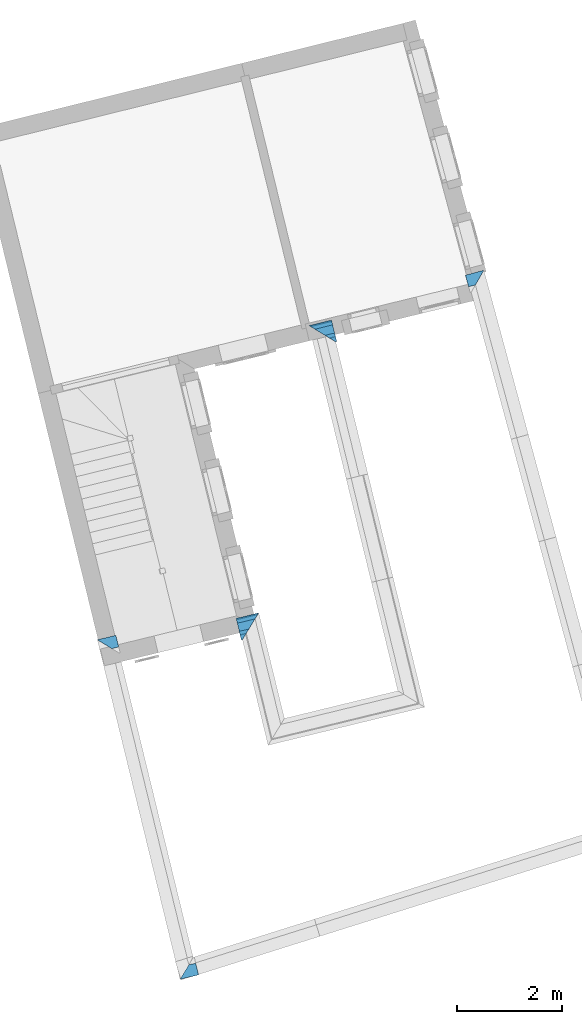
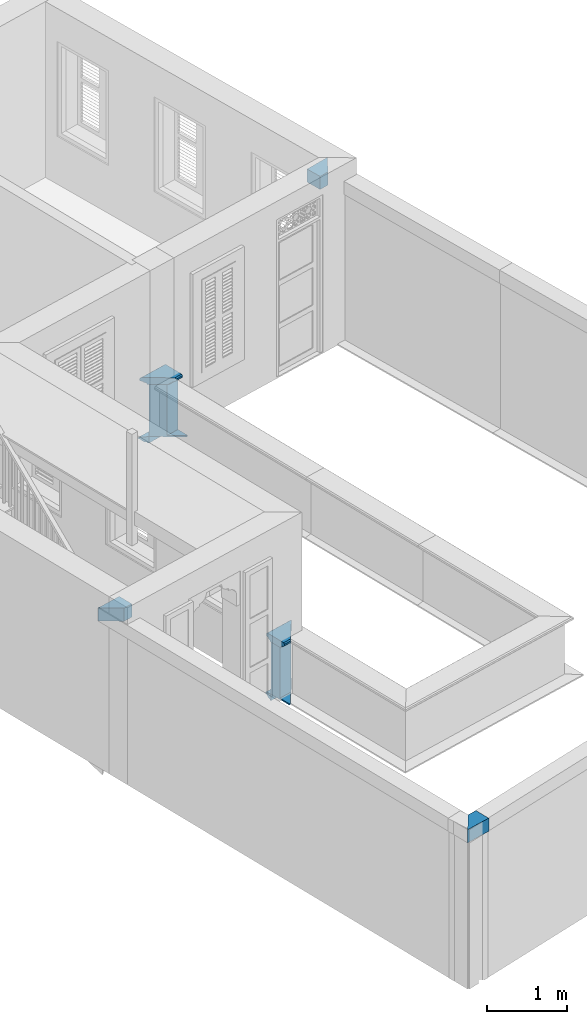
# One storey, part 9 of 9: 9 walls.
"""IFC4 building model written with IfcOpenShell, lengths in metres."""

from ifc_helpers import new_model, si_unit, frame, origin_with_axes, place, context, subcontext, project, spatial, polyline, outline, extrude, clip, halfspace, material_profile, profile_set, profile_usage, type_object, element, save


model = new_model("IFC4")

# Units and contexts
model_context = context("Model", 3, world=origin_with_axes())
body_context = subcontext(model_context, "Body", "Model", "MODEL_VIEW")
ifc_project = project(units=[si_unit("PLANEANGLEUNIT", "RADIAN"), si_unit("MASSUNIT", "GRAM", prefix="KILO"), si_unit("FORCEUNIT", "NEWTON", prefix="KILO"), si_unit("LENGTHUNIT", "METRE"), si_unit("AREAUNIT", "SQUARE_METRE"), si_unit("VOLUMEUNIT", "CUBIC_METRE")], contexts=[model_context, model_context])

# Site, building, storey
site_placement = place(None, origin_with_axes())
site = spatial("IfcSite", under=ifc_project, at=site_placement, Name="Site plot-4", CompositionType="ELEMENT")
building_placement = place(None, origin_with_axes())
building = spatial("IfcBuilding", under=site, at=building_placement, Name="Building plot-4", CompositionType="ELEMENT")
storey_placement = place(None, frame((0.0, 0.0, 2.7), z_axis=(0.0, 0.0, 1.0), x_axis=(1.0, 0.0, 0.0)))
storey = spatial("IfcBuildingStorey", under=building, at=storey_placement, Name="plot-4 1", CompositionType="ELEMENT", Elevation=2.7)

# Walls
ifc_material_profile_1 = material_profile(None, outline(polyline([(0.265, 2.245), (0.265, 2.445), (0.035, 2.445), (0.035, 2.245), (0.265, 2.245)])))
ifc_profile_set_1 = profile_set([ifc_material_profile_1])
ifc_profile_usage_1 = profile_usage(ifc_profile_set_1)
wall_type_1 = type_object("IfcWallType", Name="parapet street_1", PredefinedType="PARAPET", material=ifc_profile_set_1)
wall_1_placement = place(storey_placement, frame((25.5564989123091, 16.1146392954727, 0.0), z_axis=(0.965292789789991, 0.261170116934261, 0.0), x_axis=(-0.261170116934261, 0.965292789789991, 0.0)))
element("IfcWall", 1, at=wall_1_placement, inside=storey, type_object=wall_type_1, material=ifc_profile_usage_1, Name="parapet street_1", context=body_context, shape_type="Clipping", body=[
    clip(clip(extrude(outline(polyline([(0.265, 2.245), (0.265, 2.445), (0.035, 2.445), (0.035, 2.245), (0.265, 2.245)])), origin_with_axes(), (0.0, 0.0, 1.0), 2.1), halfspace(frame((0.0, 0.0, 1.1), z_axis=(0.707106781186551, 0.0, -0.707106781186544), x_axis=(0.0, 1.0, 0.0)), True)), halfspace(frame((0.0, 0.0, 1.0), z_axis=(-1.83758917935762e-15, 0.0, -1.0), x_axis=(0.0, 1.0, 0.0)), False)),
])
ifc_material_profile_2 = material_profile(None, outline(polyline([(0.265, 2.245), (0.265, 2.445), (0.035, 2.445), (0.035, 2.245), (0.265, 2.245)])))
ifc_profile_set_2 = profile_set([ifc_material_profile_2])
ifc_profile_usage_2 = profile_usage(ifc_profile_set_2)
wall_type_2 = type_object("IfcWallType", Name="parapet party_1", PredefinedType="PARAPET", material=ifc_profile_set_2)
wall_2_placement = place(storey_placement, frame((18.7631193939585, 9.22990863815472, 0.0), z_axis=(0.971605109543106, 0.23660834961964, 0.0), x_axis=(-0.23660834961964, 0.971605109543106, 0.0)))
element("IfcWall", 2, at=wall_2_placement, inside=storey, type_object=wall_type_2, material=ifc_profile_usage_2, Name="parapet party_1", context=body_context, shape_type="Clipping", body=[
    clip(clip(extrude(outline(polyline([(0.265, 2.245), (0.265, 2.445), (0.035, 2.445), (0.035, 2.245), (0.265, 2.245)])), origin_with_axes(), (0.0, 0.0, 1.0), 2.1), halfspace(frame((0.0, 0.0, 1.1), z_axis=(-6.12323399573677e-17, 0.0, -1.0), x_axis=(0.0, 1.0, 0.0)), True)), halfspace(frame((0.0, 0.0, 1.0), z_axis=(-0.707106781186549, 0.0, -0.707106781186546), x_axis=(0.0, 1.0, 0.0)), False)),
])
ifc_profile_usage_3 = profile_usage(ifc_profile_set_2)
wall_3_placement = place(storey_placement, frame((22.2589266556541, 3.75020261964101, 0.0), z_axis=(-0.971605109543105, -0.236608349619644, 0.0), x_axis=(0.236608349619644, -0.971605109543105, 0.0)))
element("IfcWall", 3, at=wall_3_placement, inside=storey, type_object=wall_type_2, material=ifc_profile_usage_3, Name="parapet party_1", context=body_context, shape_type="Clipping", body=[
    clip(clip(extrude(outline(polyline([(0.265, 2.245), (0.265, 2.445), (0.035, 2.445), (0.035, 2.245), (0.265, 2.245)])), origin_with_axes(), (0.0, 0.0, 1.0), 2.1), halfspace(frame((0.0, 0.0, 1.1), z_axis=(0.707106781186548, 0.0, -0.707106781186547), x_axis=(0.0, 1.0, 0.0)), True)), halfspace(frame((0.0, 0.0, 1.0), z_axis=(8.26946079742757e-16, 0.0, -1.0), x_axis=(0.0, 1.0, 0.0)), False)),
])
ifc_material_profile_3 = material_profile(None, outline(polyline([(0.25, 0.0), (0.25, 0.795), (0.09, 0.795), (0.09, 0.02), (-0.08, 0.02), (-0.08, 0.0), (0.25, 0.0)])))
ifc_profile_set_3 = profile_set([ifc_material_profile_3])
ifc_profile_usage_4 = profile_usage(ifc_profile_set_3)
wall_type_3 = type_object("IfcWallType", Name="parapet internal_0", PredefinedType="PARAPET", material=ifc_profile_set_3)
wall_4_placement = place(storey_placement, frame((22.9044285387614, 15.1784479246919, 0.0), z_axis=(0.971605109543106, 0.23660834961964, 0.0), x_axis=(-0.23660834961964, 0.971605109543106, 0.0)))
element("IfcWall", 4, at=wall_4_placement, inside=storey, type_object=wall_type_3, material=ifc_profile_usage_4, Name="parapet internal_0", context=body_context, shape_type="Clipping", body=[
    clip(clip(extrude(outline(polyline([(0.25, 0.0), (0.25, 0.795), (0.09, 0.795), (0.09, 0.02), (-0.08, 0.02), (-0.08, 0.0), (0.25, 0.0)])), origin_with_axes(), (0.0, 0.0, 1.0), 2.1), halfspace(frame((0.0, 0.0, 1.1), z_axis=(-6.12323399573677e-17, 0.0, -1.0), x_axis=(0.0, 1.0, 0.0)), True)), halfspace(frame((0.0, 0.0, 1.0), z_axis=(-0.707106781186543, 0.0, -0.707106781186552), x_axis=(0.0, 1.0, 0.0)), False)),
])
ifc_profile_usage_5 = profile_usage(ifc_profile_set_3)
wall_5_placement = place(storey_placement, frame((21.1780542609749, 9.49894155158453, 0.0), z_axis=(0.971605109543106, 0.23660834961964, 0.0), x_axis=(-0.23660834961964, 0.971605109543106, 0.0)))
element("IfcWall", 5, at=wall_5_placement, inside=storey, type_object=wall_type_3, material=ifc_profile_usage_5, Name="parapet internal_0", context=body_context, shape_type="Clipping", body=[
    clip(clip(extrude(outline(polyline([(0.25, 0.0), (0.25, 0.795), (0.09, 0.795), (0.09, 0.02), (-0.08, 0.02), (-0.08, 0.0), (0.25, 0.0)])), origin_with_axes(), (0.0, 0.0, 1.0), 2.1), halfspace(frame((0.0, 0.0, 1.1), z_axis=(0.707106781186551, 0.0, -0.707106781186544), x_axis=(0.0, 1.0, 0.0)), True)), halfspace(frame((0.0, 0.0, 1.0), z_axis=(-6.12323399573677e-17, 0.0, -1.0), x_axis=(0.0, 1.0, 0.0)), False)),
])
ifc_material_profile_4 = material_profile(None, outline(polyline([(0.265, 0.795), (0.268, 0.807), (0.274, 0.816), (0.283, 0.822), (0.295, 0.825), (0.295, 0.84), (0.305, 0.84), (0.317, 0.842), (0.326, 0.849), (0.333, 0.858), (0.335, 0.87), (0.333, 0.882), (0.326, 0.891), (0.317, 0.898), (0.305, 0.9), (0.035, 0.9), (0.023, 0.898), (0.014, 0.891), (0.007, 0.882), (0.005, 0.87), (0.007, 0.858), (0.014, 0.849), (0.023, 0.842), (0.035, 0.84), (0.045, 0.84), (0.045, 0.825), (0.057, 0.822), (0.066, 0.816), (0.072, 0.807), (0.075, 0.795), (0.265, 0.795)])))
ifc_profile_set_4 = profile_set([ifc_material_profile_4])
ifc_profile_usage_6 = profile_usage(ifc_profile_set_4)
wall_type_4 = type_object("IfcWallType", Name="parapet internal_1", PredefinedType="PARAPET", material=ifc_profile_set_4)
wall_6_placement = place(storey_placement, frame((22.9044285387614, 15.1784479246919, 0.0), z_axis=(0.971605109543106, 0.23660834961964, 0.0), x_axis=(-0.23660834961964, 0.971605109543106, 0.0)))
element("IfcWall", 6, at=wall_6_placement, inside=storey, type_object=wall_type_4, material=ifc_profile_usage_6, Name="parapet internal_1", context=body_context, shape_type="Clipping", body=[
    clip(clip(extrude(outline(polyline([(0.265, 0.795), (0.268, 0.807), (0.274, 0.816), (0.283, 0.822), (0.295, 0.825), (0.295, 0.84), (0.305, 0.84), (0.317, 0.842), (0.326, 0.849), (0.333, 0.858), (0.335, 0.87), (0.333, 0.882), (0.326, 0.891), (0.317, 0.898), (0.305, 0.9), (0.035, 0.9), (0.023, 0.898), (0.014, 0.891), (0.007, 0.882), (0.005, 0.87), (0.007, 0.858), (0.014, 0.849), (0.023, 0.842), (0.035, 0.84), (0.045, 0.84), (0.045, 0.825), (0.057, 0.822), (0.066, 0.816), (0.072, 0.807), (0.075, 0.795), (0.265, 0.795)])), origin_with_axes(), (0.0, 0.0, 1.0), 2.1), halfspace(frame((0.0, 0.0, 1.1), z_axis=(-6.12323399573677e-17, 0.0, -1.0), x_axis=(0.0, 1.0, 0.0)), True)), halfspace(frame((0.0, 0.0, 1.0), z_axis=(-0.707106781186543, 0.0, -0.707106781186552), x_axis=(0.0, 1.0, 0.0)), False)),
])
ifc_profile_usage_7 = profile_usage(ifc_profile_set_4)
wall_7_placement = place(storey_placement, frame((21.1780542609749, 9.49894155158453, 0.0), z_axis=(0.971605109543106, 0.23660834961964, 0.0), x_axis=(-0.23660834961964, 0.971605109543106, 0.0)))
element("IfcWall", 7, at=wall_7_placement, inside=storey, type_object=wall_type_4, material=ifc_profile_usage_7, Name="parapet internal_1", context=body_context, shape_type="Clipping", body=[
    clip(clip(extrude(outline(polyline([(0.265, 0.795), (0.268, 0.807), (0.274, 0.816), (0.283, 0.822), (0.295, 0.825), (0.295, 0.84), (0.305, 0.84), (0.317, 0.842), (0.326, 0.849), (0.333, 0.858), (0.335, 0.87), (0.333, 0.882), (0.326, 0.891), (0.317, 0.898), (0.305, 0.9), (0.035, 0.9), (0.023, 0.898), (0.014, 0.891), (0.007, 0.882), (0.005, 0.87), (0.007, 0.858), (0.014, 0.849), (0.023, 0.842), (0.035, 0.84), (0.045, 0.84), (0.045, 0.825), (0.057, 0.822), (0.066, 0.816), (0.072, 0.807), (0.075, 0.795), (0.265, 0.795)])), origin_with_axes(), (0.0, 0.0, 1.0), 2.1), halfspace(frame((0.0, 0.0, 1.1), z_axis=(0.707106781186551, 0.0, -0.707106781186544), x_axis=(0.0, 1.0, 0.0)), True)), halfspace(frame((0.0, 0.0, 1.0), z_axis=(-6.12323399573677e-17, 0.0, -1.0), x_axis=(0.0, 1.0, 0.0)), False)),
])
ifc_material_profile_5 = material_profile(None, outline(polyline([(0.25, -0.1), (0.265, -0.1), (0.265, -0.085), (0.278, -0.084), (0.289, -0.081), (0.301, -0.074), (0.309, -0.065), (0.315, -0.055), (0.324, -0.044), (0.334, -0.038), (0.345, -0.035), (0.345, -0.015), (0.25, 0.0), (0.25, -0.1)])))
ifc_profile_set_5 = profile_set([ifc_material_profile_5])
ifc_profile_usage_8 = profile_usage(ifc_profile_set_5)
wall_type_5 = type_object("IfcWallType", Name="parapet internal_2", PredefinedType="PARAPET", material=ifc_profile_set_5)
wall_8_placement = place(storey_placement, frame((22.9044285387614, 15.1784479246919, 0.0), z_axis=(0.971605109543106, 0.23660834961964, 0.0), x_axis=(-0.23660834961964, 0.971605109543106, 0.0)))
element("IfcWall", 8, at=wall_8_placement, inside=storey, type_object=wall_type_5, material=ifc_profile_usage_8, Name="parapet internal_2", context=body_context, shape_type="Clipping", body=[
    clip(clip(extrude(outline(polyline([(0.25, -0.1), (0.265, -0.1), (0.265, -0.085), (0.278, -0.084), (0.289, -0.081), (0.301, -0.074), (0.309, -0.065), (0.315, -0.055), (0.324, -0.044), (0.334, -0.038), (0.345, -0.035), (0.345, -0.015), (0.25, 0.0), (0.25, -0.1)])), origin_with_axes(), (0.0, 0.0, 1.0), 2.1), halfspace(frame((0.0, 0.0, 1.1), z_axis=(-6.12323399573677e-17, 0.0, -1.0), x_axis=(0.0, 1.0, 0.0)), True)), halfspace(frame((0.0, 0.0, 1.0), z_axis=(-0.707106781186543, 0.0, -0.707106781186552), x_axis=(0.0, 1.0, 0.0)), False)),
])
ifc_profile_usage_9 = profile_usage(ifc_profile_set_5)
wall_9_placement = place(storey_placement, frame((21.1780542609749, 9.49894155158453, 0.0), z_axis=(0.971605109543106, 0.23660834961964, 0.0), x_axis=(-0.23660834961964, 0.971605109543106, 0.0)))
element("IfcWall", 9, at=wall_9_placement, inside=storey, type_object=wall_type_5, material=ifc_profile_usage_9, Name="parapet internal_2", context=body_context, shape_type="Clipping", body=[
    clip(clip(extrude(outline(polyline([(0.25, -0.1), (0.265, -0.1), (0.265, -0.085), (0.278, -0.084), (0.289, -0.081), (0.301, -0.074), (0.309, -0.065), (0.315, -0.055), (0.324, -0.044), (0.334, -0.038), (0.345, -0.035), (0.345, -0.015), (0.25, 0.0), (0.25, -0.1)])), origin_with_axes(), (0.0, 0.0, 1.0), 2.1), halfspace(frame((0.0, 0.0, 1.1), z_axis=(0.707106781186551, 0.0, -0.707106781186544), x_axis=(0.0, 1.0, 0.0)), True)), halfspace(frame((0.0, 0.0, 1.0), z_axis=(-6.12323399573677e-17, 0.0, -1.0), x_axis=(0.0, 1.0, 0.0)), False)),
])

save(model, "model.ifc")
